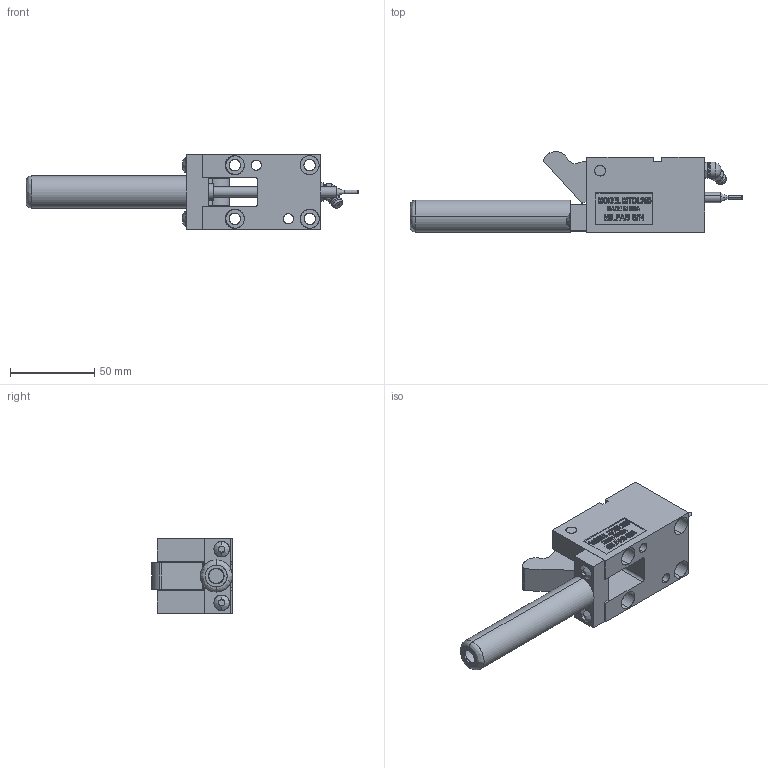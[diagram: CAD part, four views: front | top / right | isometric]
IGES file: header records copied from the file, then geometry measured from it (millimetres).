
Start section: SolidWorks IGES file using analytic representation for surfaces
Global section: file name: Y:\METRIC With OFFSETRIGGER\TOPMOUNT\MTOL25045\OPEN\MTOL25045-O.IGS; native system: SolidWorks 2006 by SolidWorks Corporation; preprocessor: SolidWorks 2006 by SolidWorks Corporation; author: Jim; date: 090120.173812; units: inch
Bounding box: 196.85 x 47.85 x 44.45 mm (x, y, z)
Surface area: 47844.5 mm2 (no closed solid volume)
Topology: 0 solids, 0 shells, 602 faces, 7316 edges, 7312 vertices
Faces by surface type: bspline 482, revolution 120
